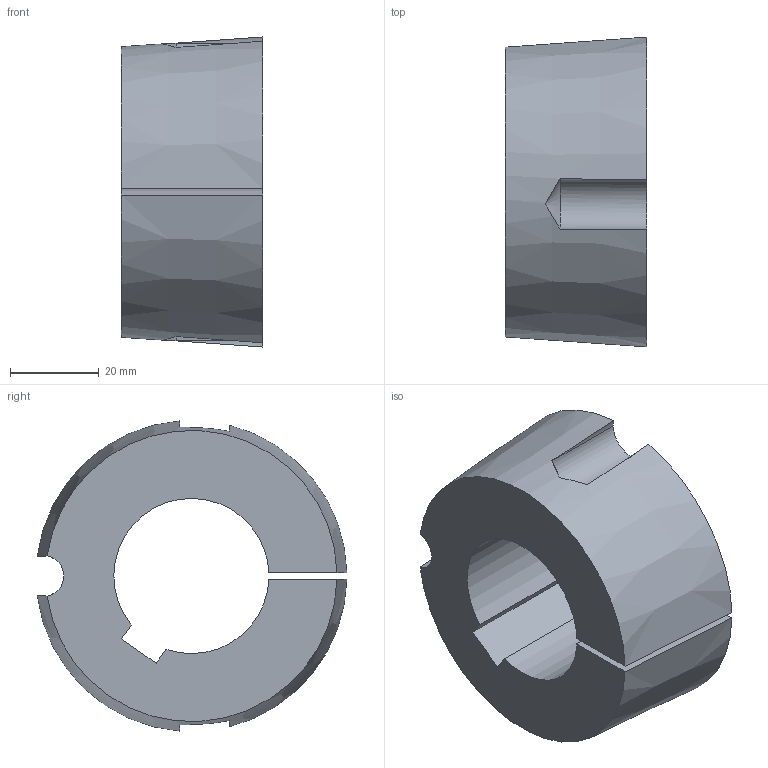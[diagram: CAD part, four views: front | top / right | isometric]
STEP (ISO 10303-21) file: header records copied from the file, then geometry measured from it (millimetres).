
FILE_DESCRIPTION( ( '' ), '1' );
FILE_NAME( 'C:/Users/StangenbergN/Desktop/06.02.2019_steps/6225053492.stp', '2019-02-06T20:01:37', ( '' ), ( '' ), ' ', ' ', ' ' );
FILE_SCHEMA( ( 'CONFIG_CONTROL_DESIGN' ) );
Length unit declared in the file: millimetre
Products named in the file (1): 1
Bounding box: 31.8 x 69.72 x 69.81 mm (x, y, z)
Volume: 78897.9 mm3; surface area: 16996.3 mm2
Topology: 1 solids, 1 shells, 24 faces, 64 edges, 42 vertices
Faces by surface type: cylinder 11, plane 7, cone 6
Entity records: 972 total; most frequent: CARTESIAN_POINT 331, ORIENTED_EDGE 128, DIRECTION 126, EDGE_CURVE 64, AXIS2_PLACEMENT_3D 51, VERTEX_POINT 42, CIRCLE 26, ADVANCED_FACE 24
